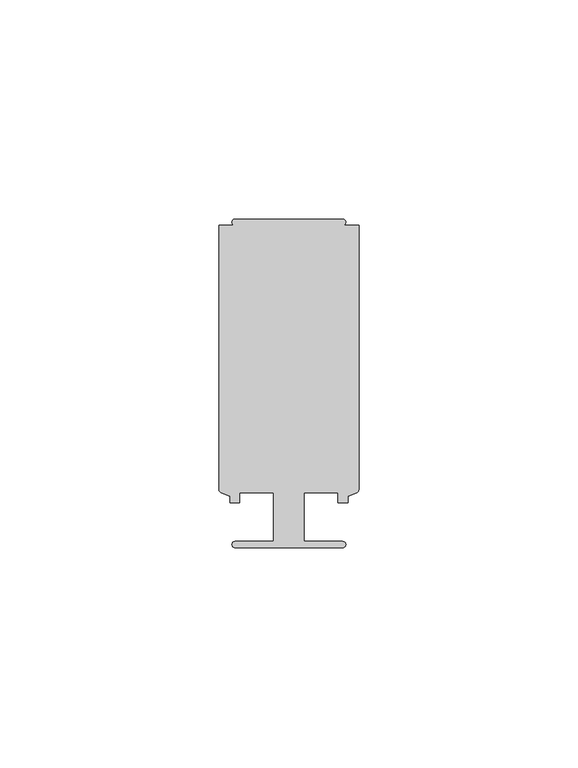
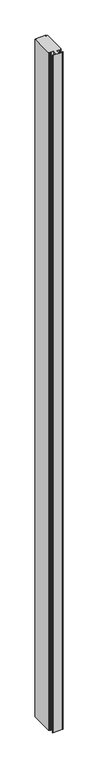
"""IFC4 building model written with IfcOpenShell, lengths in millimetres: member geometry, Прямоугольный импост : 2-AMG-1-Профиль 26Х75 Средний."""

from ifc_helpers import new_model, si_unit, point, frame, frame_2d, origin, place, context, project, spatial, polyline, circle_curve, trimmed, segment, composite_curve, outline, extrude, source, transform, mapped, element, save


def member_84f5351a(model_context):
    return source(origin(), model_context, "Body", "SweptSolid", [
        extrude(outline(composite_curve([segment(polyline([(12.2976562, -37.5), (-12.3023438, -37.5)]), True, "CONTINUOUS"), segment(trimmed(circle_curve(frame_2d((-12.3023438, -36.8)), 0.7), [point((-12.3023438, -37.5))], [point((-12.3023438, -36.1))], False, "CARTESIAN"), True, "CONTINUOUS"), segment(polyline([(-12.3023438, -36.1), (-3.5023438, -36.1), (-3.5023438, -25.0), (-11.2993767, -25.0), (-11.2993767, -27.25), (-13.4493278, -27.25), (-13.4493278, -25.836597), (-15.5219415, -24.9333875)]), True, "CONTINUOUS"), segment(trimmed(circle_curve(frame_2d((-15.2023438, -24.2)), 0.8), [point((-15.5219415, -24.9333875))], [point((-16.0023438, -24.2))], False, "CARTESIAN"), True, "CONTINUOUS"), segment(polyline([(-16.0023438, -24.2), (-16.0023438, 36.1), (-12.3004766, 36.1)]), True, "CONTINUOUS"), segment(trimmed(circle_curve(frame_2d((-12.3004766, 36.8)), 0.7), [point((-12.3004766, 36.1))], [point((-12.3004766, 37.5))], False, "CARTESIAN"), True, "CONTINUOUS"), segment(polyline([(-12.3004766, 37.5), (12.295789, 37.5)]), True, "CONTINUOUS"), segment(trimmed(circle_curve(frame_2d((12.295789, 36.8)), 0.7), [point((12.295789, 37.5))], [point((12.295789, 36.1))], False, "CARTESIAN"), True, "CONTINUOUS"), segment(polyline([(12.295789, 36.1), (15.9976562, 36.1), (15.9976562, -24.2)]), True, "CONTINUOUS"), segment(trimmed(circle_curve(frame_2d((15.1976562, -24.2)), 0.8), [point((15.9976562, -24.2))], [point((15.5172539, -24.9333875))], False, "CARTESIAN"), True, "CONTINUOUS"), segment(polyline([(15.5172539, -24.9333875), (13.4446403, -25.836597), (13.4446403, -27.25), (11.2193767, -27.25), (11.2193767, -25.0), (3.4976562, -25.0), (3.4976562, -36.1), (12.2976562, -36.1)]), True, "CONTINUOUS"), segment(trimmed(circle_curve(frame_2d((12.2976562, -36.8)), 0.7), [point((12.2976562, -36.1))], [point((12.2976562, -37.5))], False, "CARTESIAN"), True, "CONTINUOUS")], self_intersect=False)), frame((0.0, 0.0, -1833.9), z_axis=(0.0, 0.0, 1.0), x_axis=(1.0, 0.0, 0.0)), (0.0, 0.0, 1.0), 1833.9),
    ])


if __name__ == "__main__":
    model = new_model("IFC4")
    model_context = context("Model", 3, world=origin())
    ifc_project = project(units=[si_unit("LENGTHUNIT", "METRE", prefix="MILLI")], contexts=[model_context])
    site = spatial("IfcSite", under=ifc_project)
    building = spatial("IfcBuilding", under=site)
    placement = place(None, origin())
    member_shape = member_84f5351a(model_context)
    element("IfcMember", 1, ObjectType="Прямоугольный импост : 2-AMG-1-Профиль 26Х75 Средний", at=placement, inside=building, context=model_context, shape_type="MappedRepresentation", body=[
        mapped(member_shape, transform((0.0, 0.0, 0.0), x_axis=(1.0, 0.0, 0.0), y_axis=(0.0, 1.0, 0.0), z_axis=(0.0, 0.0, 1.0))),
    ])
    save(model, "model.ifc")
